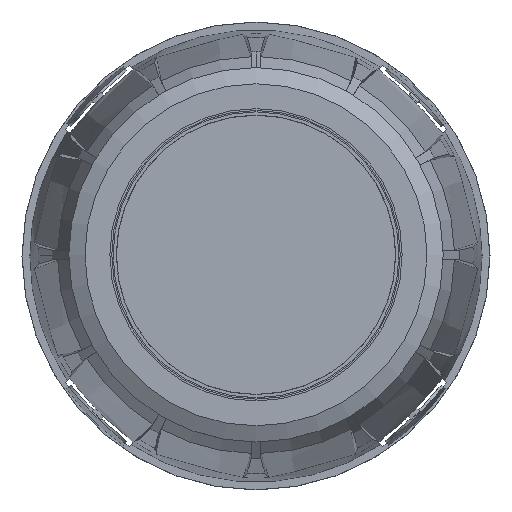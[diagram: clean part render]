
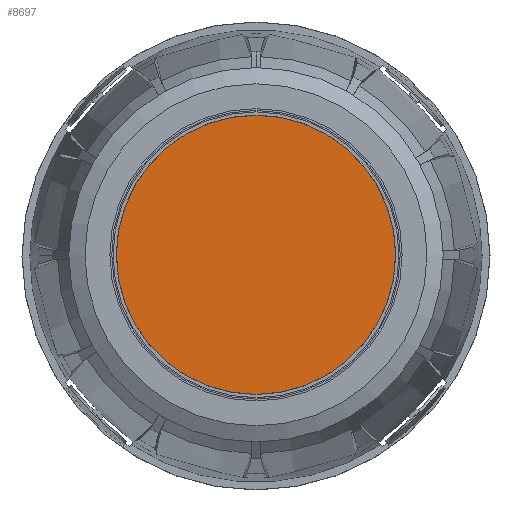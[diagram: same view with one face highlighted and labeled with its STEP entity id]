
A CAD part, top view. The second image highlights one B-rep face of the part: STEP entity #8697.
In plain terms, the highlighted planar face has unit normal (0, 0, 1).
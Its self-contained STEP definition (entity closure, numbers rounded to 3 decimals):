
#408 = ORIENTED_EDGE ( 'NONE', *, *, #9182, .T. ) ;
#589 = AXIS2_PLACEMENT_3D ( 'NONE', #13710, #915, #3913 ) ;
#915 = DIRECTION ( 'NONE',  ( 0., 0., 1. ) ) ;
#3714 = VERTEX_POINT ( 'NONE', #13920 ) ;
#3913 = DIRECTION ( 'NONE',  ( 1., 0., 0. ) ) ;
#4422 = DIRECTION ( 'NONE',  ( 1., 0., 0. ) ) ;
#8697 = ADVANCED_FACE ( 'NONE', ( #20379 ), #18975, .T. ) ;
#8713 = EDGE_LOOP ( 'NONE', ( #408 ) ) ;
#9182 = EDGE_CURVE ( 'NONE', #3714, #3714, #19812, .T. ) ;
#13710 = CARTESIAN_POINT ( 'NONE',  ( 0., 0., 8.921 ) ) ;
#13920 = CARTESIAN_POINT ( 'NONE',  ( 52.191, 0., 8.921 ) ) ;
#15349 = AXIS2_PLACEMENT_3D ( 'NONE', #21112, #19147, #4422 ) ;
#18975 = PLANE ( 'NONE',  #589 ) ;
#19147 = DIRECTION ( 'NONE',  ( 0., 0., 1. ) ) ;
#19812 = CIRCLE ( 'NONE', #15349, 52.191 ) ;
#20379 = FACE_OUTER_BOUND ( 'NONE', #8713, .T. ) ;
#21112 = CARTESIAN_POINT ( 'NONE',  ( 0., 0., 8.921 ) ) ;
